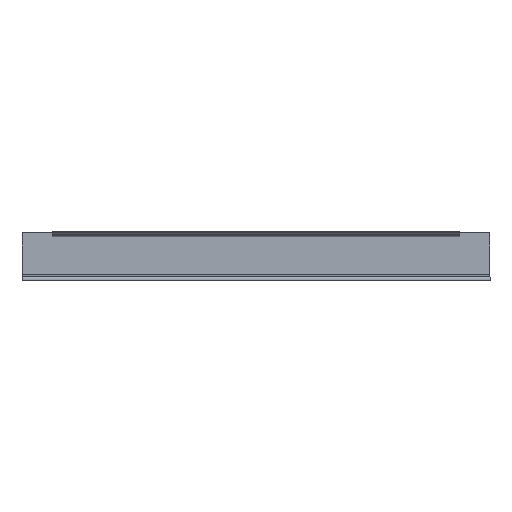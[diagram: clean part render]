
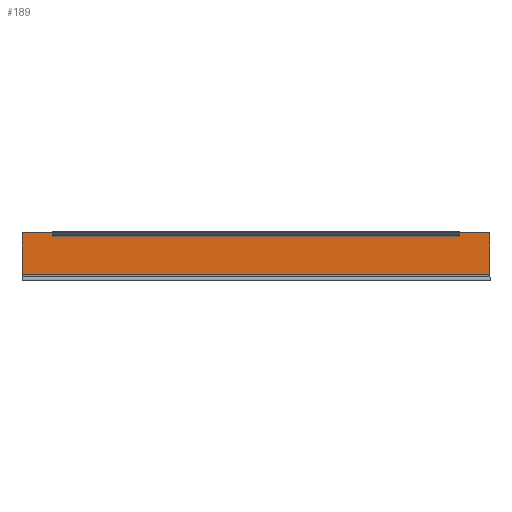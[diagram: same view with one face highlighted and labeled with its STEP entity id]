
A CAD part, left-side view. The second image highlights one B-rep face of the part: STEP entity #189.
In plain terms, the highlighted planar face has unit normal (-1, 0, 0).
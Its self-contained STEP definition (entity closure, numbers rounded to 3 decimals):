
#14 = VECTOR ( 'NONE', #476, 1000. ) ;
#15 = LINE ( 'NONE', #475, #14 ) ;
#21 = LINE ( 'NONE', #455, #47 ) ;
#47 = VECTOR ( 'NONE', #456, 1000. ) ;
#56 = VECTOR ( 'NONE', #397, 1000. ) ;
#57 = VECTOR ( 'NONE', #427, 1000. ) ;
#65 = VECTOR ( 'NONE', #392, 1000. ) ;
#77 = VECTOR ( 'NONE', #386, 1000. ) ;
#78 = LINE ( 'NONE', #385, #77 ) ;
#79 = LINE ( 'NONE', #391, #56 ) ;
#81 = LINE ( 'NONE', #389, #65 ) ;
#85 = LINE ( 'NONE', #375, #95 ) ;
#94 = LINE ( 'NONE', #442, #130 ) ;
#95 = VECTOR ( 'NONE', #380, 1000. ) ;
#96 = FACE_OUTER_BOUND ( 'NONE', #219, .T. ) ;
#115 = LINE ( 'NONE', #424, #57 ) ;
#130 = VECTOR ( 'NONE', #443, 1000. ) ;
#146 = VERTEX_POINT ( 'NONE', #172 ) ;
#148 = CARTESIAN_POINT ( 'NONE',  ( 6.024, 0., -51.31 ) ) ;
#149 = CARTESIAN_POINT ( 'NONE',  ( 6.024, 529.5, -51.31 ) ) ;
#157 = CARTESIAN_POINT ( 'NONE',  ( 6.024, 34., -8.71 ) ) ;
#161 = VERTEX_POINT ( 'NONE', #157 ) ;
#167 = VERTEX_POINT ( 'NONE', #149 ) ;
#168 = VERTEX_POINT ( 'NONE', #148 ) ;
#172 = CARTESIAN_POINT ( 'NONE',  ( 6.024, 495.5, -8.71 ) ) ;
#189 = ADVANCED_FACE ( 'NONE', ( #96 ), #328, .T. ) ;
#219 = EDGE_LOOP ( 'NONE', ( #255, #254, #315, #257, #256, #270, #314, #313 ) ) ;
#254 = ORIENTED_EDGE ( 'NONE', *, *, #607, .T. ) ;
#255 = ORIENTED_EDGE ( 'NONE', *, *, #563, .F. ) ;
#256 = ORIENTED_EDGE ( 'NONE', *, *, #597, .F. ) ;
#257 = ORIENTED_EDGE ( 'NONE', *, *, #620, .F. ) ;
#270 = ORIENTED_EDGE ( 'NONE', *, *, #566, .T. ) ;
#313 = ORIENTED_EDGE ( 'NONE', *, *, #572, .T. ) ;
#314 = ORIENTED_EDGE ( 'NONE', *, *, #557, .T. ) ;
#315 = ORIENTED_EDGE ( 'NONE', *, *, #588, .F. ) ;
#328 = PLANE ( 'NONE',  #605 ) ;
#332 = CARTESIAN_POINT ( 'NONE',  ( 6.024, 529.5, -9.925 ) ) ;
#341 = DIRECTION ( 'NONE',  ( -1., 0., 0. ) ) ;
#342 = DIRECTION ( 'NONE',  ( 0., 0., -1. ) ) ;
#356 = CARTESIAN_POINT ( 'NONE',  ( 6.024, 529.5, -4.106 ) ) ;
#367 = CARTESIAN_POINT ( 'NONE',  ( 6.024, 495.5, -4.106 ) ) ;
#368 = CARTESIAN_POINT ( 'NONE',  ( 6.024, 34., -4.106 ) ) ;
#372 = CARTESIAN_POINT ( 'NONE',  ( 6.024, 0., -4.106 ) ) ;
#375 = CARTESIAN_POINT ( 'NONE',  ( 6.024, 529.5, -8.71 ) ) ;
#380 = DIRECTION ( 'NONE',  ( 0., 0., -1. ) ) ;
#385 = CARTESIAN_POINT ( 'NONE',  ( 6.024, 0., -9.925 ) ) ;
#386 = DIRECTION ( 'NONE',  ( 0., 0., -1. ) ) ;
#389 = CARTESIAN_POINT ( 'NONE',  ( 6.024, 529.5, -4.106 ) ) ;
#391 = CARTESIAN_POINT ( 'NONE',  ( 6.024, 529.5, -51.31 ) ) ;
#392 = DIRECTION ( 'NONE',  ( 0., 1., 0. ) ) ;
#397 = DIRECTION ( 'NONE',  ( 0., -1., 0. ) ) ;
#424 = CARTESIAN_POINT ( 'NONE',  ( 6.024, 34., -2.932 ) ) ;
#427 = DIRECTION ( 'NONE',  ( 0., 0., 1. ) ) ;
#442 = CARTESIAN_POINT ( 'NONE',  ( 6.024, 495.5, -2.932 ) ) ;
#443 = DIRECTION ( 'NONE',  ( 0., 0., -1. ) ) ;
#455 = CARTESIAN_POINT ( 'NONE',  ( 6.024, 529.5, -4.106 ) ) ;
#456 = DIRECTION ( 'NONE',  ( 0., 1., 0. ) ) ;
#475 = CARTESIAN_POINT ( 'NONE',  ( 6.024, 529.5, -8.71 ) ) ;
#476 = DIRECTION ( 'NONE',  ( 0., -1., 0. ) ) ;
#531 = VERTEX_POINT ( 'NONE', #356 ) ;
#533 = VERTEX_POINT ( 'NONE', #368 ) ;
#535 = VERTEX_POINT ( 'NONE', #367 ) ;
#544 = VERTEX_POINT ( 'NONE', #372 ) ;
#557 = EDGE_CURVE ( 'NONE', #531, #167, #85, .T. ) ;
#563 = EDGE_CURVE ( 'NONE', #544, #168, #78, .T. ) ;
#566 = EDGE_CURVE ( 'NONE', #535, #531, #81, .T. ) ;
#572 = EDGE_CURVE ( 'NONE', #167, #168, #79, .T. ) ;
#588 = EDGE_CURVE ( 'NONE', #161, #533, #115, .T. ) ;
#597 = EDGE_CURVE ( 'NONE', #535, #146, #94, .T. ) ;
#605 = AXIS2_PLACEMENT_3D ( 'NONE', #332, #341, #342 ) ;
#607 = EDGE_CURVE ( 'NONE', #544, #533, #21, .T. ) ;
#620 = EDGE_CURVE ( 'NONE', #146, #161, #15, .T. ) ;
